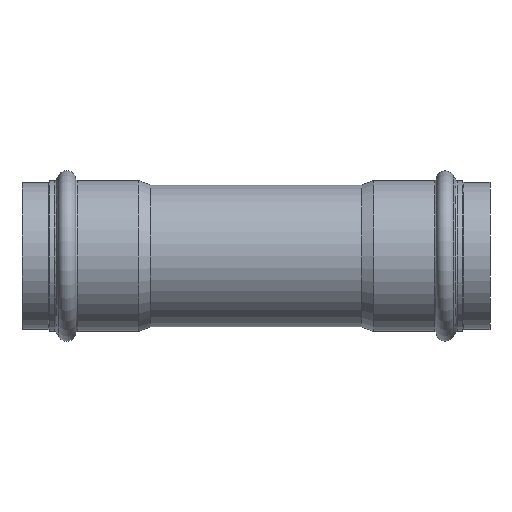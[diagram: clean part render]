
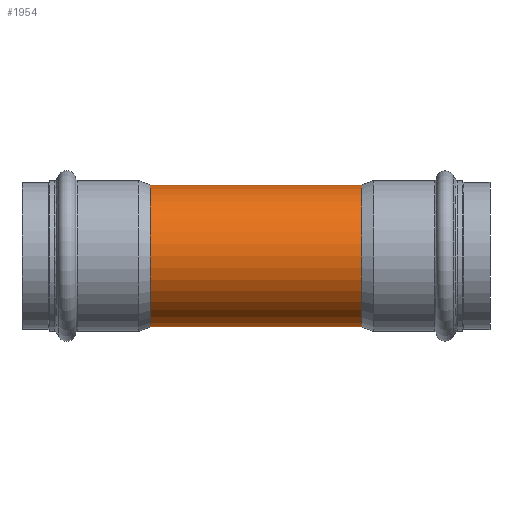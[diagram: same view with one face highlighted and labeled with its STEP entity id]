
A CAD part, front view. The second image highlights one B-rep face of the part: STEP entity #1954.
In plain terms, the highlighted cylindrical face has radius 27 mm (diameter 54 mm), a full revolution.
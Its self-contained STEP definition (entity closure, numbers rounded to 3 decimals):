
#1757=CARTESIAN_POINT('',(0.,22.942,-14.236));
#1758=VERTEX_POINT('',#1757);
#1835=CARTESIAN_POINT('',(0.,22.942,-14.236));
#1836=CARTESIAN_POINT('',(-0.276,22.942,-14.236));
#1837=CARTESIAN_POINT('',(-1.378,22.961,-14.206));
#1838=CARTESIAN_POINT('',(-3.017,23.104,-13.974));
#1839=CARTESIAN_POINT('',(-4.856,23.417,-13.446));
#1840=CARTESIAN_POINT('',(-6.599,23.818,-12.729));
#1841=CARTESIAN_POINT('',(-7.993,24.236,-11.916));
#1842=CARTESIAN_POINT('',(-9.275,24.678,-10.965));
#1843=CARTESIAN_POINT('',(-10.265,25.051,-10.095));
#1844=CARTESIAN_POINT('',(-11.453,25.542,-8.796));
#1845=CARTESIAN_POINT('',(-12.37,25.955,-7.486));
#1846=CARTESIAN_POINT('',(-13.046,26.274,-6.244));
#1847=CARTESIAN_POINT('',(-13.448,26.47,-5.351));
#1848=CARTESIAN_POINT('',(-13.824,26.655,-4.343));
#1849=CARTESIAN_POINT('',(-14.221,26.856,-2.962));
#1850=CARTESIAN_POINT('',(-14.514,27.007,-1.089));
#1851=CARTESIAN_POINT('',(-14.514,27.007,0.904));
#1852=CARTESIAN_POINT('',(-14.319,26.906,2.334));
#1853=CARTESIAN_POINT('',(-14.016,26.752,3.74));
#1854=CARTESIAN_POINT('',(-13.521,26.503,5.289));
#1855=CARTESIAN_POINT('',(-12.573,26.047,7.196));
#1856=CARTESIAN_POINT('',(-11.451,25.541,8.799));
#1857=CARTESIAN_POINT('',(-10.495,25.146,9.843));
#1858=CARTESIAN_POINT('',(-9.729,24.849,10.566));
#1859=CARTESIAN_POINT('',(-8.522,24.403,11.586));
#1860=CARTESIAN_POINT('',(-6.999,23.923,12.533));
#1861=CARTESIAN_POINT('',(-5.358,23.531,13.243));
#1862=CARTESIAN_POINT('',(-3.99,23.257,13.719));
#1863=CARTESIAN_POINT('',(-2.474,23.048,14.065));
#1864=CARTESIAN_POINT('',(-1.013,22.955,14.216));
#1865=CARTESIAN_POINT('',(0.457,22.929,14.257));
#1866=CARTESIAN_POINT('',(2.201,23.01,14.127));
#1867=CARTESIAN_POINT('',(3.898,23.244,13.74));
#1868=CARTESIAN_POINT('',(4.928,23.445,13.393));
#1869=CARTESIAN_POINT('',(5.601,23.589,13.137));
#1870=CARTESIAN_POINT('',(6.669,23.844,12.676));
#1871=CARTESIAN_POINT('',(8.226,24.304,11.787));
#1872=CARTESIAN_POINT('',(9.9,24.903,10.472));
#1873=CARTESIAN_POINT('',(11.228,25.446,9.071));
#1874=CARTESIAN_POINT('',(12.064,25.817,7.924));
#1875=CARTESIAN_POINT('',(12.685,26.103,6.921));
#1876=CARTESIAN_POINT('',(13.43,26.457,5.513));
#1877=CARTESIAN_POINT('',(14.083,26.785,3.638));
#1878=CARTESIAN_POINT('',(14.374,26.935,1.982));
#1879=CARTESIAN_POINT('',(14.514,27.007,0.546));
#1880=CARTESIAN_POINT('',(14.514,27.007,-1.084));
#1881=CARTESIAN_POINT('',(14.208,26.849,-3.046));
#1882=CARTESIAN_POINT('',(13.797,26.642,-4.427));
#1883=CARTESIAN_POINT('',(13.283,26.388,-5.768));
#1884=CARTESIAN_POINT('',(12.729,26.122,-6.881));
#1885=CARTESIAN_POINT('',(11.962,25.771,-8.07));
#1886=CARTESIAN_POINT('',(11.213,25.443,-9.059));
#1887=CARTESIAN_POINT('',(10.255,25.047,-10.105));
#1888=CARTESIAN_POINT('',(9.064,24.599,-11.149));
#1889=CARTESIAN_POINT('',(7.761,24.163,-12.06));
#1890=CARTESIAN_POINT('',(6.347,23.76,-12.833));
#1891=CARTESIAN_POINT('',(4.854,23.416,-13.447));
#1892=CARTESIAN_POINT('',(2.755,23.06,-14.05));
#1893=CARTESIAN_POINT('',(1.103,22.942,-14.236));
#1894=CARTESIAN_POINT('',(0.,22.942,-14.236));
#1895=CARTESIAN_POINT('',(0.,22.942,-14.236));
#1896=CARTESIAN_POINT('',(0.,22.942,-14.236));
#1897=CARTESIAN_POINT('',(0.,22.942,-14.236));
#1898=B_SPLINE_CURVE_WITH_KNOTS('',3,(#1835,#1836,#1837,#1838,#1839,#1840,#1841,#1842,#1843,#1844,#1845,#1846,#1847,#1848,#1849,#1850,#1851,#1852,#1853,#1854,#1855,#1856,#1857,#1858,#1859,#1860,#1861,#1862,#1863,#1864,#1865,#1866,#1867,#1868,#1869,#1870,#1871,#1872,#1873,#1874,#1875,#1876,#1877,#1878,#1879,#1880,#1881,#1882,#1883,#1884,#1885,#1886,#1887,#1888,#1889,#1890,#1891,#1892,#1893,#1894,#1895,#1896,#1897),.UNSPECIFIED.,.T.,.U.,(4,1,1,1,1,1,1,1,1,1,1,1,1,1,1,1,1,1,1,1,1,1,1,1,1,1,1,1,1,1,1,1,1,1,1,1,1,1,1,1,1,1,1,1,1,1,1,1,1,1,1,1,1,1,1,1,1,3,4),(-8.626,-8.549,-8.317,-8.163,-8.009,-7.778,-7.701,-7.547,-7.393,-7.188,-7.085,-6.983,-6.906,-6.777,-6.572,-6.366,-6.212,-6.161,-5.956,-5.75,-5.545,-5.391,-5.34,-5.237,-4.929,-4.826,-4.724,-4.518,-4.39,-4.313,-4.107,-3.902,-3.825,-3.799,-3.697,-3.491,-3.286,-3.081,-2.927,-2.875,-2.738,-2.464,-2.31,-2.259,-2.054,-1.848,-1.694,-1.643,-1.438,-1.335,-1.232,-1.078,-0.924,-0.77,-0.616,-0.462,-0.308,0.0,0.),.UNSPECIFIED.);
#1899=EDGE_CURVE('',#1758,#1758,#1898,.T.);
#1924=CARTESIAN_POINT('',(0.,0.,0.0));
#1925=DIRECTION('',(1.0,0.,0.0));
#1926=DIRECTION('',(0.0,1.0,0.0));
#1927=AXIS2_PLACEMENT_3D('',#1924,#1925,#1926);
#1928=CYLINDRICAL_SURFACE('',#1927,27.);
#1929=CARTESIAN_POINT('',(-40.133,27.,0.0));
#1930=VERTEX_POINT('',#1929);
#1931=CARTESIAN_POINT('',(-40.133,0.,0.0));
#1932=DIRECTION('',(1.0,0.0,0.0));
#1933=DIRECTION('',(0.0,1.0,0.0));
#1934=AXIS2_PLACEMENT_3D('',#1931,#1932,#1933);
#1935=CIRCLE('',#1934,27.0);
#1936=EDGE_CURVE('',#1930,#1930,#1935,.T.);
#1937=ORIENTED_EDGE('',*,*,#1936,.T.);
#1938=EDGE_LOOP('',(#1937));
#1939=FACE_OUTER_BOUND('',#1938,.T.);
#1940=CARTESIAN_POINT('',(40.133,27.,0.0));
#1941=VERTEX_POINT('',#1940);
#1942=CARTESIAN_POINT('',(40.133,0.,0.0));
#1943=DIRECTION('',(1.0,0.0,0.0));
#1944=DIRECTION('',(0.0,1.0,0.0));
#1945=AXIS2_PLACEMENT_3D('',#1942,#1943,#1944);
#1946=CIRCLE('',#1945,27.);
#1947=EDGE_CURVE('',#1941,#1941,#1946,.T.);
#1948=ORIENTED_EDGE('',*,*,#1947,.F.);
#1949=EDGE_LOOP('',(#1948));
#1950=FACE_BOUND('',#1949,.T.);
#1951=ORIENTED_EDGE('',*,*,#1899,.F.);
#1952=EDGE_LOOP('',(#1951));
#1953=FACE_BOUND('',#1952,.T.);
#1954=ADVANCED_FACE('',(#1939,#1950,#1953),#1928,.T.);
